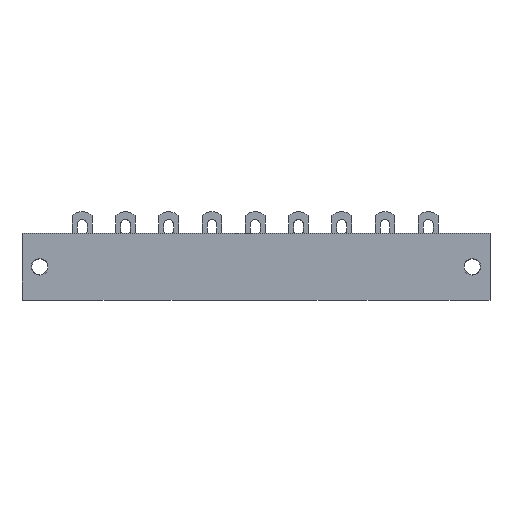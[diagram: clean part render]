
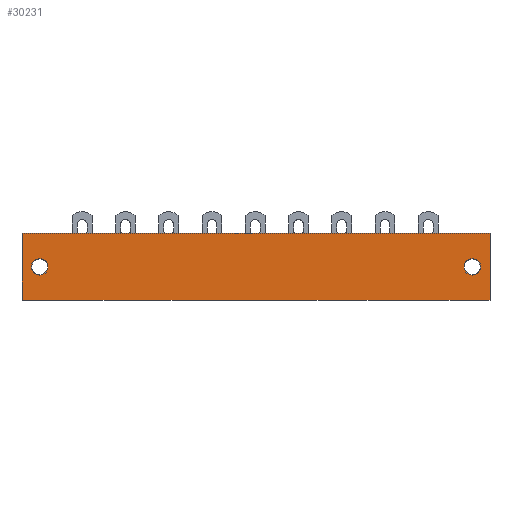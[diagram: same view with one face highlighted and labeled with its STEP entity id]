
A CAD part, front view. The second image highlights one B-rep face of the part: STEP entity #30231.
In plain terms, the highlighted planar face has unit normal (0, -1, 0).
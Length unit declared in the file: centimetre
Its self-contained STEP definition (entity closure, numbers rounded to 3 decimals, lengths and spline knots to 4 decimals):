
#1046=VECTOR('',#31909,1.);
#1564=VECTOR('',#32745,1.);
#3967=VECTOR('',#37634,1.);
#3968=VECTOR('',#37635,1.);
#4406=LINE('',#39226,#1046);
#4924=LINE('',#41129,#1564);
#7327=LINE('',#47637,#3967);
#7328=LINE('',#47638,#3968);
#7893=VERTEX_POINT('',#39227);
#7894=VERTEX_POINT('',#39228);
#7905=VERTEX_POINT('',#39252);
#8372=VERTEX_POINT('',#41130);
#8373=VERTEX_POINT('',#41131);
#8384=VERTEX_POINT('',#41155);
#10539=CIRCLE('',#47826,0.21);
#10587=CIRCLE('',#48068,0.21);
#11663=EDGE_CURVE('',#7893,#7894,#4406,.T.);
#11675=EDGE_CURVE('',#7905,#7905,#10539,.T.);
#12350=EDGE_CURVE('',#8372,#8373,#4924,.T.);
#12362=EDGE_CURVE('',#8384,#8384,#10587,.T.);
#15687=EDGE_CURVE('',#8373,#7893,#7327,.T.);
#15688=EDGE_CURVE('',#7894,#8372,#7328,.T.);
#24701=ORIENTED_EDGE('',*,*,#11675,.T.);
#24702=ORIENTED_EDGE('',*,*,#12362,.T.);
#24703=ORIENTED_EDGE('',*,*,#15687,.T.);
#24704=ORIENTED_EDGE('',*,*,#11663,.T.);
#24705=ORIENTED_EDGE('',*,*,#15688,.T.);
#24706=ORIENTED_EDGE('',*,*,#12350,.T.);
#26697=EDGE_LOOP('',(#24701));
#26698=EDGE_LOOP('',(#24702));
#26699=EDGE_LOOP('',(#24703,#24704,#24705,#24706));
#28561=FACE_BOUND('',#26697,.T.);
#28562=FACE_BOUND('',#26698,.T.);
#28563=FACE_BOUND('',#26699,.T.);
#30231=ADVANCED_FACE('',(#28561,#28562,#28563),#31308,.T.);
#31308=PLANE('',#49691);
#31909=DIRECTION('',(0.,0.,1.));
#31927=DIRECTION('',(0.,1.,0.));
#31928=DIRECTION('',(0.21,0.,0.));
#32745=DIRECTION('',(0.,0.,-1.));
#32763=DIRECTION('',(0.,1.,0.));
#32764=DIRECTION('',(-0.21,0.,0.));
#37633=DIRECTION('',(0.,-1.,0.));
#37634=DIRECTION('',(1.,0.,0.));
#37635=DIRECTION('',(-1.,0.,0.));
#39226=CARTESIAN_POINT('',(9.9,0.,0.85));
#39227=CARTESIAN_POINT('',(9.9,0.,-0.85));
#39228=CARTESIAN_POINT('',(9.9,0.,0.85));
#39251=CARTESIAN_POINT('',(9.45,0.,0.));
#39252=CARTESIAN_POINT('',(9.24,0.,0.));
#41129=CARTESIAN_POINT('',(-2.,0.,-0.85));
#41130=CARTESIAN_POINT('',(-2.,0.,0.85));
#41131=CARTESIAN_POINT('',(-2.,0.,-0.85));
#41154=CARTESIAN_POINT('',(-1.55,0.,0.));
#41155=CARTESIAN_POINT('',(-1.34,0.,0.));
#47636=CARTESIAN_POINT('',(0.,0.,0.));
#47637=CARTESIAN_POINT('',(0.,0.,-0.85));
#47638=CARTESIAN_POINT('',(-1.1,0.,0.85));
#47826=AXIS2_PLACEMENT_3D('',#39251,#31927,#31928);
#48068=AXIS2_PLACEMENT_3D('',#41154,#32763,#32764);
#49691=AXIS2_PLACEMENT_3D('',#47636,#37633,$);
